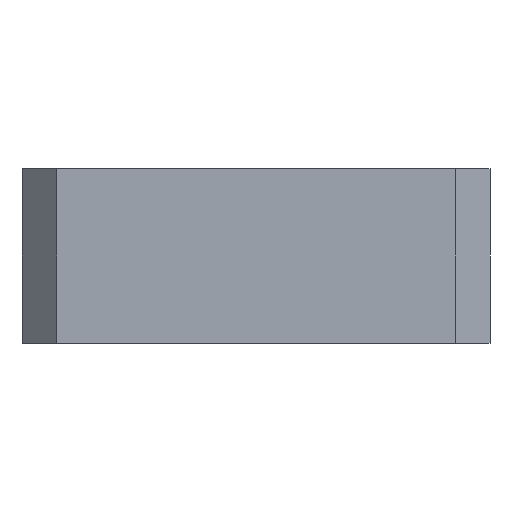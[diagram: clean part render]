
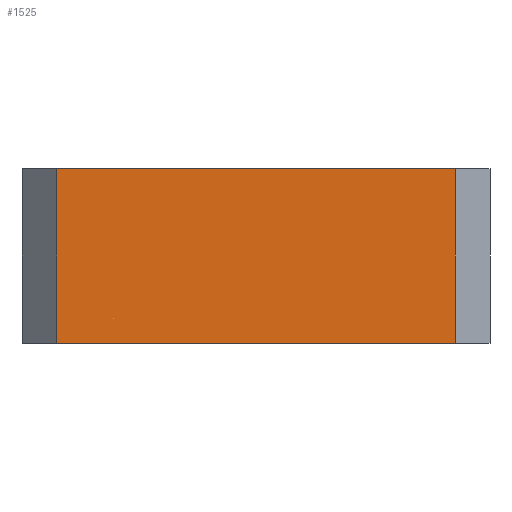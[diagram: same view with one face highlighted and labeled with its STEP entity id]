
A CAD part, front view. The second image highlights one B-rep face of the part: STEP entity #1525.
In plain terms, the highlighted planar face has unit normal (0, -1, 0).
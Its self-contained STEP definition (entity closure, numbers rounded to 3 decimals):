
#1498=AXIS2_PLACEMENT_3D('Plane Axis2P3D',#1495,#1496,#1497) ;
#1443=CARTESIAN_POINT('Line Origine',(-27.,-90.,-12.9)) ;
#1447=CARTESIAN_POINT('Vertex',(-27.,-90.,-0.4)) ;
#1449=CARTESIAN_POINT('Vertex',(-27.,-90.,-25.4)) ;
#1495=CARTESIAN_POINT('Axis2P3D Location',(35.,-90.,0.)) ;
#1500=CARTESIAN_POINT('Line Origine',(1.5,-90.,-0.4)) ;
#1504=CARTESIAN_POINT('Vertex',(30.,-90.,-0.4)) ;
#1507=CARTESIAN_POINT('Line Origine',(1.5,-90.,-25.4)) ;
#1511=CARTESIAN_POINT('Vertex',(30.,-90.,-25.4)) ;
#1514=CARTESIAN_POINT('Line Origine',(30.,-90.,-12.9)) ;
#1444=DIRECTION('Vector Direction',(0.,0.,1.)) ;
#1496=DIRECTION('Axis2P3D Direction',(-0.,-1.,-0.)) ;
#1497=DIRECTION('Axis2P3D XDirection',(-1.,0.,0.)) ;
#1501=DIRECTION('Vector Direction',(-1.,0.,0.)) ;
#1508=DIRECTION('Vector Direction',(-1.,0.,0.)) ;
#1515=DIRECTION('Vector Direction',(0.,0.,-1.)) ;
#1445=VECTOR('Line Direction',#1444,1.) ;
#1502=VECTOR('Line Direction',#1501,1.) ;
#1509=VECTOR('Line Direction',#1508,1.) ;
#1516=VECTOR('Line Direction',#1515,1.) ;
#1520=ORIENTED_EDGE('',*,*,#1506,.F.) ;
#1521=ORIENTED_EDGE('',*,*,#1451,.T.) ;
#1522=ORIENTED_EDGE('',*,*,#1513,.T.) ;
#1523=ORIENTED_EDGE('',*,*,#1518,.F.) ;
#1525=ADVANCED_FACE('PartBody',(#1524),#1499,.T.) ;
#1451=EDGE_CURVE('',#1448,#1450,#1446,.F.) ;
#1506=EDGE_CURVE('',#1448,#1505,#1503,.F.) ;
#1513=EDGE_CURVE('',#1450,#1512,#1510,.F.) ;
#1518=EDGE_CURVE('',#1505,#1512,#1517,.T.) ;
#1519=EDGE_LOOP('',(#1520,#1521,#1522,#1523)) ;
#1524=FACE_OUTER_BOUND('',#1519,.T.) ;
#1446=LINE('Line',#1443,#1445) ;
#1503=LINE('Line',#1500,#1502) ;
#1510=LINE('Line',#1507,#1509) ;
#1517=LINE('Line',#1514,#1516) ;
#1499=PLANE('',#1498) ;
#1448=VERTEX_POINT('',#1447) ;
#1450=VERTEX_POINT('',#1449) ;
#1505=VERTEX_POINT('',#1504) ;
#1512=VERTEX_POINT('',#1511) ;
